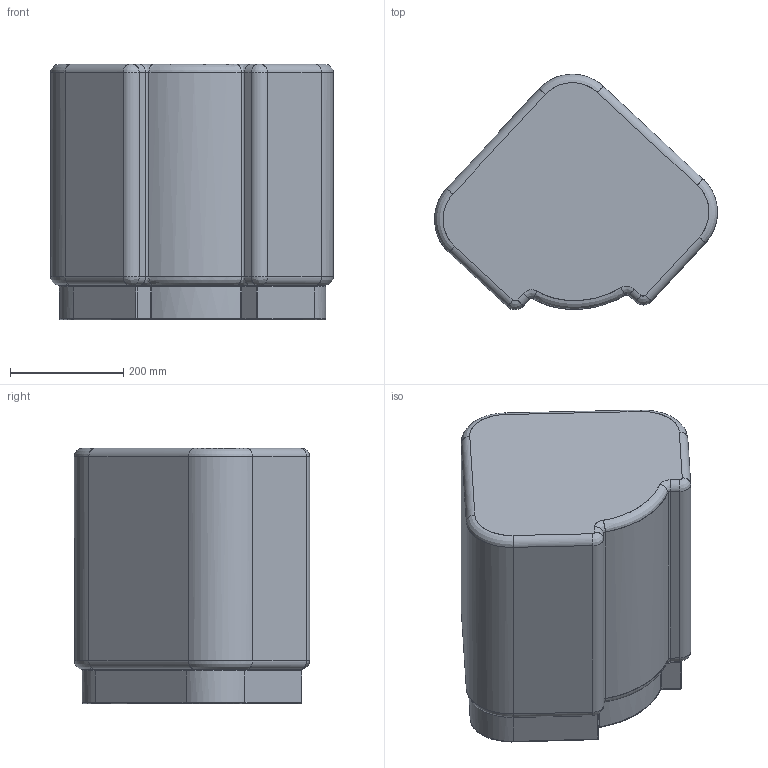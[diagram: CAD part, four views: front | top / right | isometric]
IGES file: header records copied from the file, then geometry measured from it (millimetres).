
Global section: file name: C:\Users\market02\Desktop\RYAN\3D\Majordome\exportation\FMAJOPO040_POUF_MAJORDOME.igs; native system: Rhinoceros ( Dec 14 2021 ); preprocessor: Trout Lake IGES 012 Dec 14 2021; date: 220310.115957; units: millimetre
Bounding box: 499.16 x 415.14 x 450.69 mm (x, y, z)
Surface area: 1134340 mm2 (no closed solid volume)
Topology: 0 solids, 0 shells, 88 faces, 434 edges, 434 vertices
Faces by surface type: bspline 88
